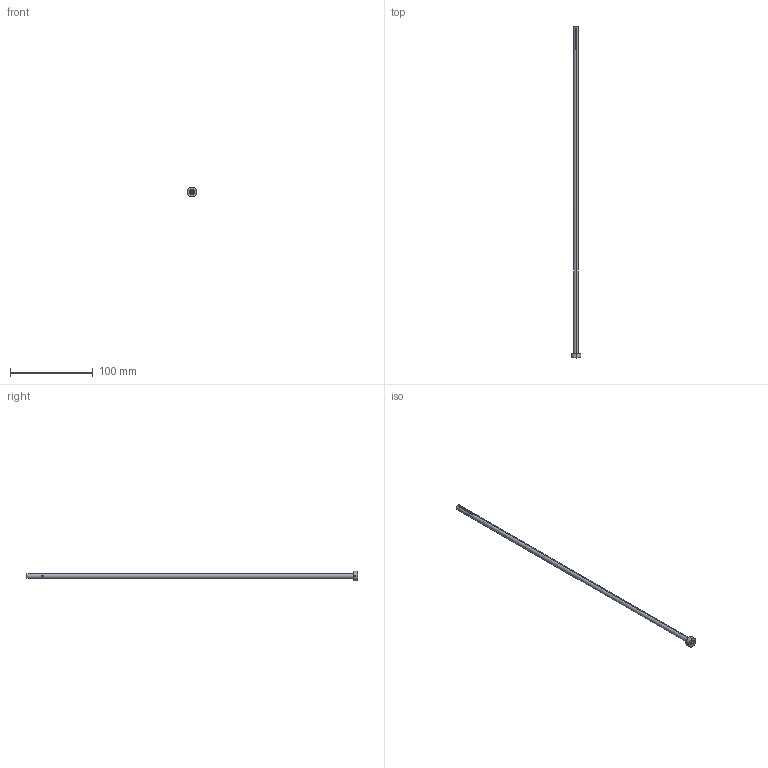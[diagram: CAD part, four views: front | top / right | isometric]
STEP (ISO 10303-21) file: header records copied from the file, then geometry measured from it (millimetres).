
FILE_DESCRIPTION (( 'STEP AP203' ), '1' );
FILE_NAME ('SGDE-605x400.STEP', '2017-01-10T15:38:08', ( 'Balzi' ), ( '' ), 'SwSTEP 2.0', 'SolidWorks 2016', '' );
FILE_SCHEMA (( 'CONFIG_CONTROL_DESIGN' ));
Length unit declared in the file: millimetre
Products named in the file (1): SGDE-605x400
Bounding box: 12 x 400.5 x 12 mm (x, y, z)
Volume: 6276 mm3; surface area: 13758.9 mm2
Topology: 1 solids, 1 shells, 84 faces, 234 edges, 154 vertices
Faces by surface type: cylinder 48, plane 32, cone 4
Entity records: 3313 total; most frequent: CARTESIAN_POINT 1077, ORIENTED_EDGE 468, DIRECTION 422, EDGE_CURVE 234, AXIS2_PLACEMENT_3D 155, VERTEX_POINT 154, VECTOR 112, LINE 112
